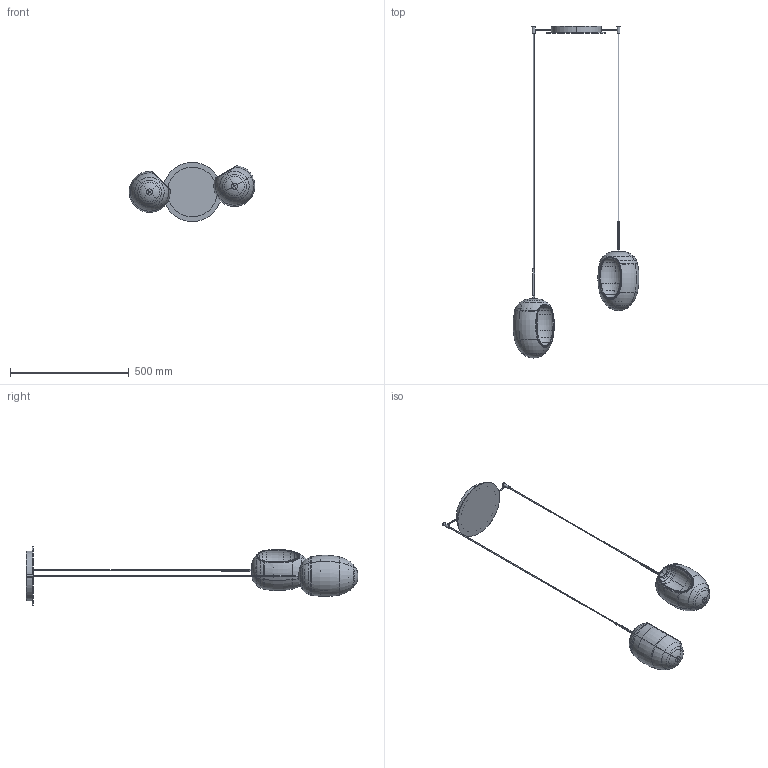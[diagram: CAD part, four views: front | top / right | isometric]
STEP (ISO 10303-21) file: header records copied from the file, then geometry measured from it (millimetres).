
FILE_DESCRIPTION (( 'STEP AP203' ), '1' );
FILE_NAME ('FOS02_2 sospensione.STEP', '2025-05-19T07:13:36', ( '' ), ( '' ), 'SwSTEP 2.0', 'SolidWorks 2022', '' );
FILE_SCHEMA (( 'CONFIG_CONTROL_DESIGN' ));
Length unit declared in the file: millimetre
Products named in the file (8): FOSxx-01-FOS_lampada completa con cavo_H=1600; Cavo x Fos_H=1800; FOSxx-01-FOS_rosone+cavi_FOS_2 sospensione<A macchina>; FOS02_2 sospensione; Porta lampada definitivo FOS; FOS parte in vetro; Cavo x Fos_H=1600; FOSxx-01-FOS_lampada completa con cavo_H=1800
Assembly tree (9 placements, depth 3):
  FOS02_2 sospensione
    FOSxx-01-FOS_rosone+cavi_FOS_2 sospensione<A macchina>
    FOSxx-01-FOS_lampada completa con cavo_H=1600
      Porta lampada definitivo FOS
      FOS parte in vetro
      Cavo x Fos_H=1600
    FOSxx-01-FOS_lampada completa con cavo_H=1800
      Porta lampada definitivo FOS
      FOS parte in vetro
      Cavo x Fos_H=1800
Bounding box: 530.51 x 1400.54 x 250 mm (x, y, z)
Volume: 1887798 mm3; surface area: 770685.5 mm2
Topology: 21 solids, 21 shells, 465 faces, 1104 edges, 684 vertices
Faces by surface type: torus 162, plane 123, cylinder 94, bspline 44, cone 42
Entity records: 14577 total; most frequent: CARTESIAN_POINT 7932, DIRECTION 1256, ORIENTED_EDGE 1182, EDGE_CURVE 591, AXIS2_PLACEMENT_3D 533, VERTEX_POINT 368, CIRCLE 288, EDGE_LOOP 263
